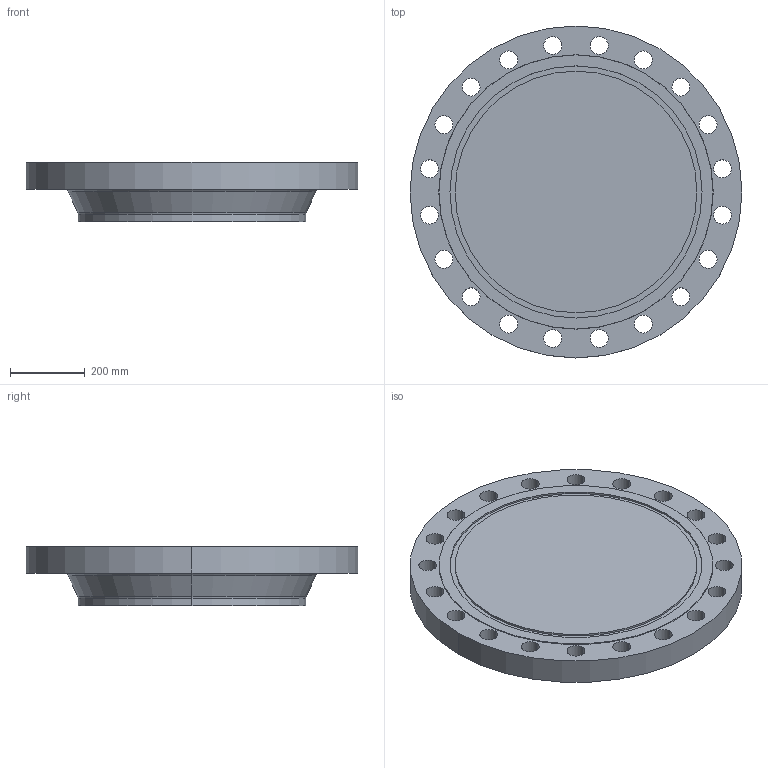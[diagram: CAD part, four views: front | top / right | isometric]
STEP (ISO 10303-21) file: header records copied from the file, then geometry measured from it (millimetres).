
FILE_DESCRIPTION (( 'STEP AP214' ), '1' );
FILE_NAME ('PN40 DN600 Type 21(ii) - Type D Face.STEP', '2018-12-29T04:38:06', ( '' ), ( '' ), 'SwSTEP 2.0', 'SolidWorks 2019', '' );
FILE_SCHEMA (( 'AUTOMOTIVE_DESIGN' ));
Length unit declared in the file: millimetre
Products named in the file (1): PN40 DN600 Type 21(ii) - Type D Face
Bounding box: 890 x 890 x 160 mm (x, y, z)
Volume: 69421316.1 mm3; surface area: 1726986.7 mm2
Topology: 1 solids, 1 shells, 62 faces, 162 edges, 106 vertices
Faces by surface type: cylinder 48, plane 6, torus 4, cone 4
Entity records: 2082 total; most frequent: DIRECTION 398, CARTESIAN_POINT 331, ORIENTED_EDGE 324, AXIS2_PLACEMENT_3D 173, EDGE_CURVE 162, CIRCLE 110, VERTEX_POINT 106, EDGE_LOOP 106
